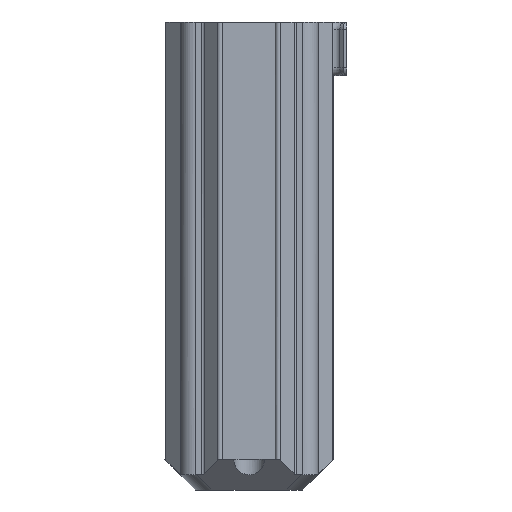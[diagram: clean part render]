
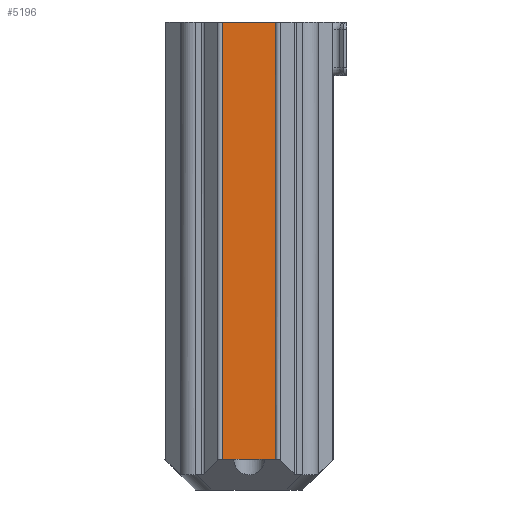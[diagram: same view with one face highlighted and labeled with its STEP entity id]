
A CAD part, left-side view. The second image highlights one B-rep face of the part: STEP entity #5196.
In plain terms, the highlighted planar face has unit normal (-1, 0, 0).
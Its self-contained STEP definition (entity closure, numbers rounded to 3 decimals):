
#587=FACE_OUTER_BOUND('',#855,.T.);
#855=EDGE_LOOP('',(#4294,#4295,#4296,#4297,#4298));
#1076=LINE('',#7750,#1560);
#1306=LINE('',#8461,#1790);
#1326=LINE('',#8522,#1810);
#1329=LINE('',#8528,#1813);
#1331=LINE('',#8532,#1815);
#1560=VECTOR('',#6176,10.);
#1790=VECTOR('',#6920,10.);
#1810=VECTOR('',#6996,10.);
#1813=VECTOR('',#7003,10.);
#1815=VECTOR('',#7009,10.);
#2065=VERTEX_POINT('',#7747);
#2066=VERTEX_POINT('',#7749);
#2276=VERTEX_POINT('',#8428);
#2290=VERTEX_POINT('',#8460);
#2303=VERTEX_POINT('',#8519);
#2590=EDGE_CURVE('',#2065,#2066,#1076,.T.);
#2946=EDGE_CURVE('',#2290,#2276,#1306,.T.);
#2977=EDGE_CURVE('',#2066,#2303,#1326,.T.);
#2980=EDGE_CURVE('',#2290,#2065,#1329,.T.);
#2983=EDGE_CURVE('',#2276,#2303,#1331,.T.);
#4294=ORIENTED_EDGE('',*,*,#2590,.F.);
#4295=ORIENTED_EDGE('',*,*,#2980,.F.);
#4296=ORIENTED_EDGE('',*,*,#2946,.T.);
#4297=ORIENTED_EDGE('',*,*,#2983,.T.);
#4298=ORIENTED_EDGE('',*,*,#2977,.F.);
#4704=PLANE('',#5685);
#5196=ADVANCED_FACE('',(#587),#4704,.F.);
#5685=AXIS2_PLACEMENT_3D('',#8547,#7031,#7032);
#6176=DIRECTION('',(0.,-1.,0.));
#6920=DIRECTION('',(0.,-1.,0.));
#6996=DIRECTION('',(0.,0.,-1.));
#7003=DIRECTION('',(0.,0.,1.));
#7009=DIRECTION('',(0.,-1.,0.));
#7031=DIRECTION('center_axis',(1.,0.,0.));
#7032=DIRECTION('ref_axis',(0.,-1.,0.));
#7747=CARTESIAN_POINT('',(2.,15.386,0.));
#7749=CARTESIAN_POINT('',(2.,6.614,0.));
#7750=CARTESIAN_POINT('',(2.,13.434,0.));
#8428=CARTESIAN_POINT('',(2.,11.,-57.2));
#8460=CARTESIAN_POINT('',(2.,15.386,-57.2));
#8461=CARTESIAN_POINT('',(2.,13.434,-57.2));
#8519=CARTESIAN_POINT('',(2.,6.614,-57.2));
#8522=CARTESIAN_POINT('',(2.,6.614,0.));
#8528=CARTESIAN_POINT('',(2.,15.386,0.));
#8532=CARTESIAN_POINT('',(2.,13.434,-57.2));
#8547=CARTESIAN_POINT('Origin',(2.,15.869,0.));
